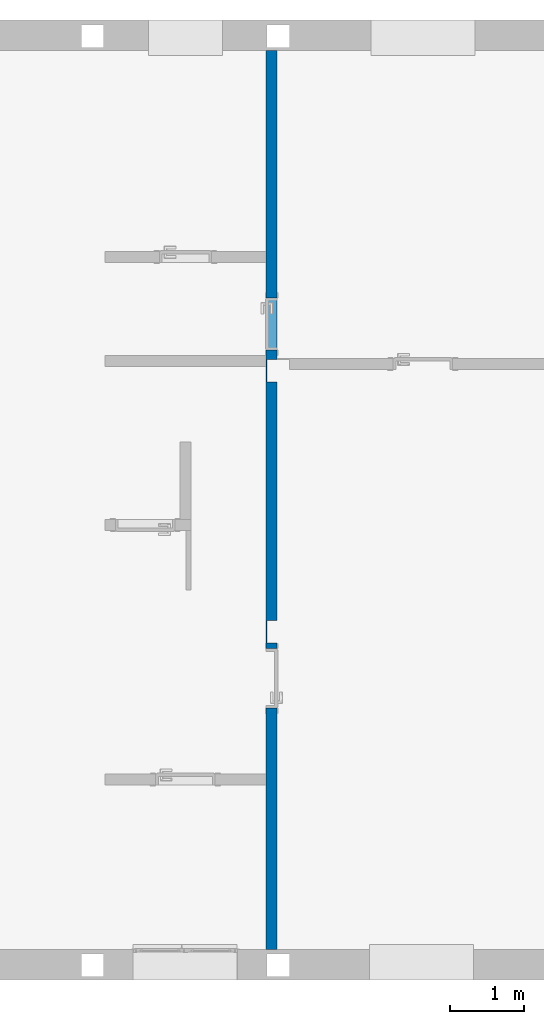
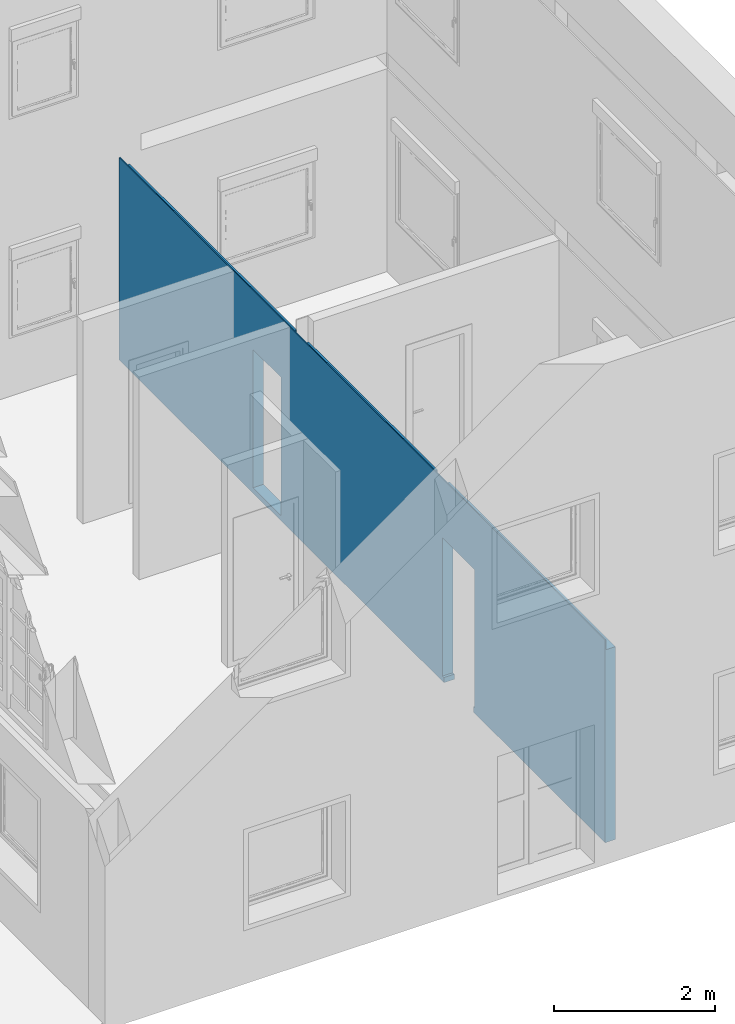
# One storey, part 5 of 11: 1 wall, 4 openings.
"""IFC2X3 building model written with IfcOpenShell, lengths in metres."""

from ifc_helpers import new_model, entity, si_unit, converted_unit, derived_unit, direction, frame, frame_2d, origin, origin_2d_with_axis, place, context, subcontext, project, spatial, polyline, rectangle, extrude, clip, bounded_halfspace, material, layer, layer_set, layer_usage, type_object, element, save


model = new_model("IFC2X3")

# Units and contexts
model_context = context("Model", 3, precision=1e-05, world=origin(), true_north=direction((6.12303176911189e-17, 1.0)))
context_of_model = context(None, 3, precision=1e-05, world=origin(), true_north=direction((6.12303176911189e-17, 1.0)))
body_context = subcontext(model_context, "Body", "Model", "MODEL_VIEW")
ifc_project = project(units=[si_unit("LENGTHUNIT", "METRE"), si_unit("AREAUNIT", "SQUARE_METRE"), si_unit("VOLUMEUNIT", "CUBIC_METRE"), converted_unit("PLANEANGLEUNIT", "DEGREE", entity("IfcRatioMeasure", 0.0174532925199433), si_unit("PLANEANGLEUNIT", "RADIAN"), dimensions=[0, 0, 0, 0, 0, 0, 0]), si_unit("MASSUNIT", "GRAM", prefix="KILO"), si_unit("TIMEUNIT", "SECOND"), si_unit("FREQUENCYUNIT", "HERTZ"), si_unit("THERMODYNAMICTEMPERATUREUNIT", "DEGREE_CELSIUS"), derived_unit("THERMALTRANSMITTANCEUNIT", [(si_unit("MASSUNIT", "GRAM", prefix="KILO"), 1), (si_unit("THERMODYNAMICTEMPERATUREUNIT", "KELVIN"), -1), (si_unit("TIMEUNIT", "SECOND"), -3)]), derived_unit("VOLUMETRICFLOWRATEUNIT", [(si_unit("LENGTHUNIT", "METRE"), 3), (si_unit("TIMEUNIT", "SECOND"), -1)]), si_unit("ELECTRICCURRENTUNIT", "AMPERE"), si_unit("ELECTRICVOLTAGEUNIT", "VOLT"), si_unit("POWERUNIT", "WATT"), si_unit("FORCEUNIT", "NEWTON", prefix="KILO"), si_unit("ILLUMINANCEUNIT", "LUX"), si_unit("LUMINOUSFLUXUNIT", "LUMEN"), si_unit("LUMINOUSINTENSITYUNIT", "CANDELA"), si_unit("PRESSUREUNIT", "PASCAL")], contexts=[model_context, context_of_model])

# Site, building, storey
site_placement = place(None, origin())
site = spatial("IfcSite", under=ifc_project, at=site_placement, Name="Default", CompositionType="ELEMENT")
building_placement = place(site_placement, origin())
building = spatial("IfcBuilding", under=site, at=building_placement, CompositionType="ELEMENT")
storey_placement = place(building_placement, frame((0.0, 0.0, 0.12)))
storey = spatial("IfcBuildingStorey", under=building, at=storey_placement, Name="01.ES.FORJADO PLANTA BAJA", CompositionType="ELEMENT", Elevation=0.12)

# Wall, openings
ifc_material = material(Name="Muro por defecto")
ifc_layer = layer(ifc_material, 0.15)
ifc_layer_set = layer_set([ifc_layer], Name="Muro básico:Por defecto - 15 cm")
ifc_layer_usage = layer_usage(ifc_layer_set, "AXIS2", "POSITIVE", -0.075)
wall_type = type_object("IfcWallType", Name="Muro básico:Por defecto - 15 cm", PredefinedType="STANDARD", material=ifc_layer_set)
wall_placement = place(storey_placement, frame((11.475, 0.815000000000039, 0.0), z_axis=(0.0, 0.0, 1.0), x_axis=(0.0, 1.0, 0.0)))
wall = element("IfcWallStandardCase", 1, at=wall_placement, inside=storey, type_object=wall_type, material=ifc_layer_usage, Name="Muro básico:Por defecto - 15 cm", ObjectType="Muro básico:Por defecto - 15 cm", context=body_context, shape_type="Clipping", body=[
    clip(clip(clip(clip(extrude(rectangle(XDim=12.0915177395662, YDim=0.150000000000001, at=frame_2d((6.04575886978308, 2.08166817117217e-17), x_axis=(-1.0, 0.0))), origin(), (0.0, 0.0, 1.0), 3.08), bounded_halfspace(frame((7.63499999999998, 0.0600000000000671, 0.0), z_axis=(0.0, 1.0, 0.0), x_axis=(0.0, 0.0, -1.0)), True, frame((7.63499999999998, 0.0600000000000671, 0.0), z_axis=(0.0, 1.0, 0.0), x_axis=(0.0, 0.0, -1.0)), polyline([(0.0, 0.0), (-2.93, 0.0), (-2.93, 3.20993891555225), (0.0, 3.20993891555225), (0.0, 3.50993891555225), (-2.93, 3.50993891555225), (-2.93, 7.63499999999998), (-3.08, 7.63499999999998), (-3.08, -4.45651773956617), (-2.93, -4.45651773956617), (-2.93, -0.299999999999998), (0.0, -0.299999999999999), (0.0, 0.0)]))), bounded_halfspace(frame((0.0, -0.0750000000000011, 2.93), z_axis=(0.0, 0.0, -1.0), x_axis=(-1.0, 0.0, 0.0)), True, frame((0.0, -0.0750000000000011, 2.93), z_axis=(0.0, 0.0, -1.0), x_axis=(-1.0, 0.0, 0.0)), polyline([(0.0, 0.0), (0.0, 0.135000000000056), (-4.12506108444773, 0.135000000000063), (-4.12506108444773, 0.0), (0.0, 0.0)]))), bounded_halfspace(frame((7.63499999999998, 0.0600000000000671, 2.93), z_axis=(0.0, 0.0, -1.0), x_axis=(-1.0, 0.0, 0.0)), True, frame((7.63499999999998, 0.0600000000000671, 2.93), z_axis=(0.0, 0.0, -1.0), x_axis=(-1.0, 0.0, 0.0)), polyline([(0.0, 0.0), (0.0, -0.135000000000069), (3.20993891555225, -0.135000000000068), (3.20993891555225, 0.0), (0.0, 0.0)]))), bounded_halfspace(frame((7.93499999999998, -0.0750000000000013, 2.93), z_axis=(0.0, 0.0, -1.0), x_axis=(-1.0, 0.0, 0.0)), True, frame((7.93499999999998, -0.0750000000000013, 2.93), z_axis=(0.0, 0.0, -1.0), x_axis=(-1.0, 0.0, 0.0)), polyline([(0.0, 0.0), (0.0, 0.135000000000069), (-4.15651773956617, 0.135000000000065), (-4.15651773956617, 0.0), (0.0, 0.0)]))),
])
opening_1_placement = place(storey_placement, frame((11.475, 0.815000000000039, 0.0), z_axis=(0.0, 0.0, 1.0), x_axis=(0.0, 1.0, 0.0)))
element("IfcOpeningElement", 2, at=opening_1_placement, cuts=wall, Name="Muro básico:Por defecto - 15 cm:1", ObjectType="Opening", context=body_context, shape_type="SweptSolid", body=[
    extrude(rectangle(XDim=0.0799999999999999, YDim=0.150000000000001, at=origin_2d_with_axis()), frame((3.27999999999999, 0.0, 0.0400000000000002), z_axis=(1.0, 0.0, 0.0), x_axis=(0.0, 0.0, -1.0)), (0.0, 0.0, 1.0), 0.730000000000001),
])
opening_2_placement = place(storey_placement, frame((11.475, 0.815000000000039, 0.0), z_axis=(0.0, 0.0, 1.0), x_axis=(0.0, 1.0, 0.0)))
element("IfcOpeningElement", 3, at=opening_2_placement, cuts=wall, Name="Muro básico:Por defecto - 15 cm:2", ObjectType="Opening", context=body_context, shape_type="SweptSolid", body=[
    extrude(rectangle(XDim=2.93, YDim=0.135000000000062, at=frame_2d((1.08246744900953e-15, -3.33066907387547e-16), x_axis=(0.0, 1.0))), frame((4.12506108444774, -0.00749999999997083, 1.465), z_axis=(1.0, 0.0, 0.0), x_axis=(0.0, 1.0, 0.0)), (0.0, 0.0, 1.0), 0.299999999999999),
])
opening_3_placement = place(wall_placement, frame((4.04499999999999, 0.0749999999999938, 0.0799999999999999)))
element("IfcOpeningElement", 4, at=opening_3_placement, cuts=wall, Name="Puerta de 1 hoja:80 x 210 cm:1", ObjectType="Opening", context=body_context, shape_type="SweptSolid", body=[
    extrude(rectangle(XDim=2.09999999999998, YDim=0.8, at=frame_2d((1.04999999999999, 0.4), x_axis=(1.0, 0.0))), frame((0.0, 0.0, 0.0), z_axis=(0.0, -1.0, 0.0), x_axis=(0.0, 0.0, 1.0)), (0.0, 0.0, 1.0), 0.15),
])
opening_4_placement = place(wall_placement, frame((8.06499999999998, -0.0750000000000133, 0.0799999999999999)))
element("IfcOpeningElement", 5, at=opening_4_placement, cuts=wall, Name="Puerta de 1 hoja:70 x 210 cm:1", ObjectType="Opening", context=body_context, shape_type="SweptSolid", body=[
    extrude(rectangle(XDim=2.09999999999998, YDim=0.7, at=frame_2d((1.04999999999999, 0.350000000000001), x_axis=(1.0, 0.0))), frame((0.0, 0.0, 0.0), z_axis=(0.0, 1.0, 0.0), x_axis=(0.0, 0.0, 1.0)), (0.0, 0.0, 1.0), 0.15),
])

save(model, "model.ifc")
